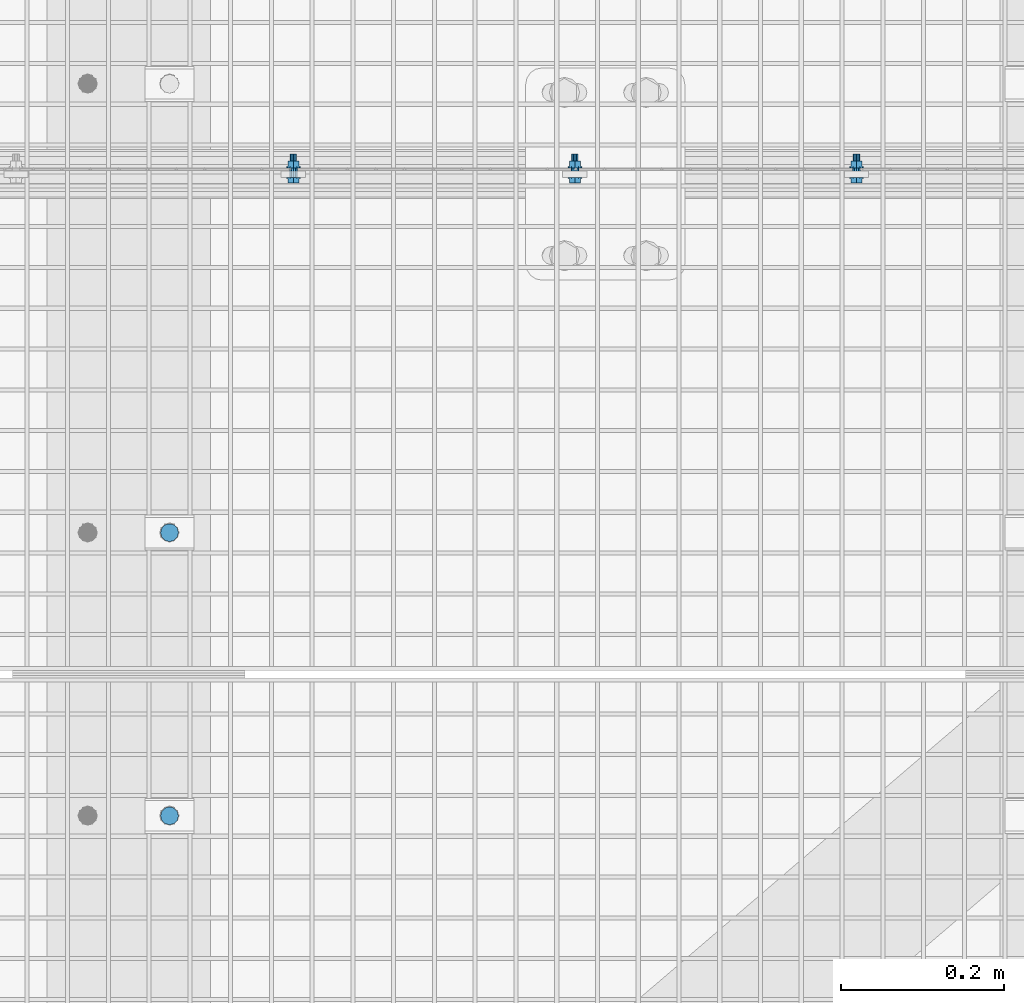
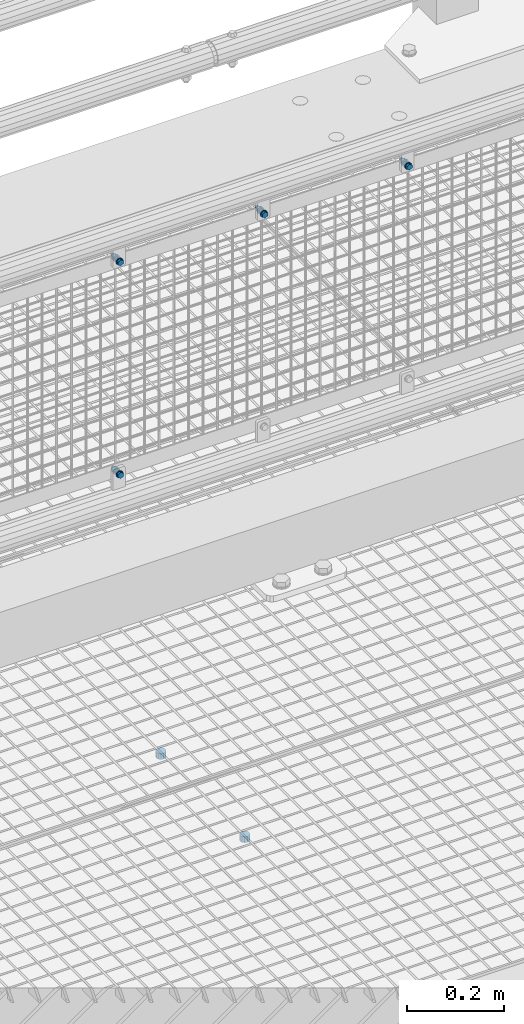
# One storey, part 79 of 1530: 6 mechanical fasteners.
"""IFC2X3 building model written with IfcOpenShell, lengths in millimetres."""

from ifc_helpers import new_model, si_unit, frame, origin_with_axes, place, context, subcontext, project, spatial, faceted_brep, source, transform, mapped, material, type_object, element, save


model = new_model("IFC2X3")

# Units and contexts
model_context = context("Model", 3, precision=1e-05, world=origin_with_axes())
body_context = subcontext(model_context, "Body", "Model", "MODEL_VIEW")
ifc_project = project(units=[si_unit("LENGTHUNIT", "METRE", prefix="MILLI"), si_unit("AREAUNIT", "SQUARE_METRE"), si_unit("VOLUMEUNIT", "CUBIC_METRE"), si_unit("MASSUNIT", "GRAM", prefix="KILO"), si_unit("TIMEUNIT", "SECOND"), si_unit("PLANEANGLEUNIT", "RADIAN"), si_unit("SOLIDANGLEUNIT", "STERADIAN"), si_unit("THERMODYNAMICTEMPERATUREUNIT", "DEGREE_CELSIUS"), si_unit("LUMINOUSINTENSITYUNIT", "LUMEN")], contexts=[model_context])

# Site, building, storey
site_placement = place(None, origin_with_axes())
site = spatial("IfcSite", under=ifc_project, at=site_placement, Name="Brattvåg", CompositionType="ELEMENT")
building_placement = place(site_placement, origin_with_axes())
building = spatial("IfcBuilding", under=site, at=building_placement, Name="Undefined", CompositionType="ELEMENT")
storey_placement = place(building_placement, origin_with_axes())
storey = spatial("IfcBuildingStorey", under=building, at=storey_placement, Name="Undefined", CompositionType="ELEMENT", Elevation=0.0)

# Mechanical fasteners
ifc_material = material(Name="8")
mechanical_fastener_type = type_object("IfcMechanicalFastenerType", Name="Bolt assembly")
shared_shape_1 = source(origin_with_axes(), body_context, "Body", "Brep", [
    faceted_brep([(11.0, -4.99999999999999, 0.0), (9.52627944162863, -4.99999999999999, 5.50000000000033), (5.49999999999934, -4.99999999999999, 9.5262794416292), (-1.13996957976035e-12, -4.99999999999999, 11.0), (-5.50000000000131, -4.99999999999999, 9.52627944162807), (-9.52627944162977, -4.99999999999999, 5.49999999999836), (-11.0, -4.99999999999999, -2.27993915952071e-12), (-9.5262794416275, -4.99999999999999, -5.5000000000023), (-5.49999999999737, -4.99999999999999, -9.52627944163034), (3.40769628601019e-12, -4.99999999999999, -11.0), (5.50000000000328, -4.99999999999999, -9.52627944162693), (9.52627944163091, -4.99999999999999, -5.49999999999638), (9.52627944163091, 10.1, -5.49999999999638), (5.50000000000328, 10.1, -9.52627944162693), (3.40769628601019e-12, 10.1, -11.0), (-5.49999999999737, 10.1, -9.52627944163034), (-9.5262794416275, 10.1, -5.5000000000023), (-11.0, 10.1, -2.27993915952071e-12), (-9.52627944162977, 10.1, 5.49999999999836), (-5.50000000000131, 10.1, 9.52627944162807), (-1.13996957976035e-12, 10.1, 11.0), (5.49999999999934, 10.1, 9.5262794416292), (9.52627944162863, 10.1, 5.50000000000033), (11.0, 10.1, 0.0)], [[[0, 1, 2, 3, 4, 5, 6, 7, 8, 9, 10, 11]], [[12, 13, 14, 15, 16, 17, 18, 19, 20, 21, 22, 23]], [[0, 23, 22, 1]], [[1, 22, 21, 2]], [[2, 21, 20, 3]], [[3, 20, 19, 4]], [[4, 19, 18, 5]], [[5, 18, 17, 6]], [[6, 17, 16, 7]], [[7, 16, 15, 8]], [[8, 15, 14, 9]], [[9, 14, 13, 10]], [[10, 13, 12, 11]], [[11, 12, 23, 0]]]),
])
for number, where, z_axis, x_axis, name in (
    (1, (4124.01192543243, 7224.99, -35.0), (0.0, -1.0, 0.0), (-1.0, 1.99999855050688e-09, 0.0), "Bolt assembly"),
    (2, (4124.01456069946, 6877.99565124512, -35.0), (0.0, -1.0, 0.0), (-1.0, 1.99999855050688e-09, 0.0), "Bolt assembly"),
):
    element("IfcMechanicalFastener", number, at=place(storey_placement, frame(where, z_axis=z_axis, x_axis=x_axis)), inside=storey, type_object=mechanical_fastener_type, material=ifc_material, Name=name, NominalDiameter=20.0, NominalLength=15.0, context=body_context, shape_type="MappedRepresentation", body=[
        mapped(shared_shape_1, transform((0.0, 0.0, 0.0))),
    ])
shared_shape_2 = source(origin_with_axes(), body_context, "Body", "Brep", [
    faceted_brep([(7.50555349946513, -6.90000021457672, 0.0), (3.75277674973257, -6.90000021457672, 6.5), (-3.75277674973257, -6.90000021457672, 6.5), (-7.50555349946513, -6.90000021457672, 9.19165206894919e-16), (-3.75277674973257, -6.90000021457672, -6.5), (3.75277674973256, -6.90000021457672, -6.5), (3.75277674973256, -1.60000002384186, -6.5), (-3.75277674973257, -1.60000002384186, -6.5), (-7.50555349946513, -1.60000002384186, 9.19165206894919e-16), (-3.75277674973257, -1.60000002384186, 6.5), (3.75277674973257, -1.60000002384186, 6.5), (7.50555349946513, -1.60000002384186, 0.0), (4.0, -1.60000002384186, 0.0), (3.46410161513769, -1.60000002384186, 2.00000000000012), (1.99999999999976, -1.60000002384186, 3.46410161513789), (-4.14534392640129e-13, -1.60000002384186, 4.0), (-2.00000000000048, -1.60000002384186, 3.46410161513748), (-3.4641016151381, -1.60000002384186, 1.9999999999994), (-4.0, -1.60000002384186, -8.29068785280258e-13), (-3.46410161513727, -1.60000002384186, -2.00000000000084), (-1.99999999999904, -1.60000002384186, -3.46410161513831), (1.23916228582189e-12, -1.60000002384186, -4.0), (2.00000000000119, -1.60000002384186, -3.46410161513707), (3.46410161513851, -1.60000002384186, -1.99999999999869), (3.46410161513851, 28.3999999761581, -1.99999999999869), (2.00000000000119, 28.3999999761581, -3.46410161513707), (1.23916228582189e-12, 28.3999999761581, -4.0), (-1.99999999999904, 28.3999999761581, -3.46410161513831), (-3.46410161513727, 28.3999999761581, -2.00000000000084), (-4.0, 28.3999999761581, -8.29068785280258e-13), (-3.4641016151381, 28.3999999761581, 1.9999999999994), (-2.00000000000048, 28.3999999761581, 3.46410161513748), (-4.14534392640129e-13, 28.3999999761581, 4.0), (1.99999999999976, 28.3999999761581, 3.46410161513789), (3.46410161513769, 28.3999999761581, 2.00000000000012), (4.0, 28.3999999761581, 0.0), (8.5, -1.60000002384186, 0.0), (7.36121593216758, -1.60000002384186, 4.25000000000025), (4.24999999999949, -1.60000002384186, 7.36121593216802), (-8.80885584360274e-13, -1.60000002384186, 8.5), (-4.25000000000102, -1.60000002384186, 7.36121593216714), (-7.36121593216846, -1.60000002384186, 4.24999999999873), (-8.5, -1.60000002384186, -1.76177116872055e-12), (-7.3612159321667, -1.60000002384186, -4.25000000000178), (-4.24999999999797, -1.60000002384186, -7.3612159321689), (2.63321985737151e-12, -1.60000002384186, -8.5), (4.25000000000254, -1.60000002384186, -7.36121593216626), (7.36121593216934, -1.60000002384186, -4.24999999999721), (7.36121593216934, 0.0, -4.24999999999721), (4.25000000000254, 0.0, -7.36121593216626), (2.63321985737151e-12, 0.0, -8.5), (-4.24999999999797, 0.0, -7.3612159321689), (-7.3612159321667, 0.0, -4.25000000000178), (-8.5, 0.0, -1.76177116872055e-12), (-7.36121593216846, 0.0, 4.24999999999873), (-4.25000000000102, 0.0, 7.36121593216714), (-8.80885584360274e-13, 0.0, 8.5), (4.24999999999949, 0.0, 7.36121593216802), (7.36121593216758, 0.0, 4.25000000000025), (8.5, 0.0, 0.0), (8.5, 11.5015258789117, 0.0), (7.36121593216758, 11.5015258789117, 4.25000000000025), (4.24999999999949, 11.5015258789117, 7.36121593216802), (-8.80885584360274e-13, 11.5015258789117, 8.5), (-4.25000000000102, 11.5015258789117, 7.36121593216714), (-7.36121593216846, 11.5015258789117, 4.24999999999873), (-8.5, 11.5015258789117, -1.76177116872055e-12), (-7.3612159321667, 11.5015258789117, -4.25000000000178), (-4.24999999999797, 11.5015258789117, -7.3612159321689), (2.63321985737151e-12, 11.5015258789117, -8.5), (4.25000000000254, 11.5015258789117, -7.36121593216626), (7.36121593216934, 11.5015258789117, -4.24999999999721), (7.36121593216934, 13.1015259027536, -4.24999999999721), (4.25000000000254, 13.1015259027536, -7.36121593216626), (2.63321985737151e-12, 13.1015259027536, -8.5), (-4.24999999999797, 13.1015259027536, -7.3612159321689), (-7.3612159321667, 13.1015259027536, -4.25000000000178), (-8.5, 13.1015259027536, -1.76177116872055e-12), (-7.36121593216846, 13.1015259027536, 4.24999999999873), (-4.25000000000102, 13.1015259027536, 7.36121593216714), (-8.80885584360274e-13, 13.1015259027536, 8.5), (4.24999999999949, 13.1015259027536, 7.36121593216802), (7.36121593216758, 13.1015259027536, 4.25000000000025), (8.5, 13.1015259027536, 0.0), (7.50555349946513, 13.1015259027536, 0.0), (3.75277674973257, 13.1015259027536, 6.5), (-3.75277674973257, 13.1015259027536, 6.5), (-7.50555349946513, 13.1015259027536, 9.19165206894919e-16), (-3.75277674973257, 13.1015259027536, -6.5), (3.75277674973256, 13.1015259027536, -6.5), (3.75277674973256, 19.9015260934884, -6.5), (-3.75277674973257, 19.9015260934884, -6.5), (-7.50555349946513, 19.9015260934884, 9.19165206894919e-16), (-3.75277674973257, 19.9015260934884, 6.5), (3.75277674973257, 19.9015260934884, 6.5), (7.50555349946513, 19.9015260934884, 0.0)], [[[0, 1, 2, 3, 4, 5]], [[6, 7, 8, 9, 10, 11]], [[0, 11, 10, 1]], [[1, 10, 9, 2]], [[2, 9, 8, 3]], [[3, 8, 7, 4]], [[4, 7, 6, 5]], [[5, 6, 11, 0]], [[12, 13, 14, 15, 16, 17, 18, 19, 20, 21, 22, 23]], [[24, 25, 26, 27, 28, 29, 30, 31, 32, 33, 34, 35]], [[12, 35, 34, 13]], [[13, 34, 33, 14]], [[14, 33, 32, 15]], [[15, 32, 31, 16]], [[16, 31, 30, 17]], [[17, 30, 29, 18]], [[18, 29, 28, 19]], [[19, 28, 27, 20]], [[20, 27, 26, 21]], [[21, 26, 25, 22]], [[22, 25, 24, 23]], [[23, 24, 35, 12]], [[36, 37, 38, 39, 40, 41, 42, 43, 44, 45, 46, 47]], [[48, 49, 50, 51, 52, 53, 54, 55, 56, 57, 58, 59]], [[36, 59, 58, 37]], [[37, 58, 57, 38]], [[38, 57, 56, 39]], [[39, 56, 55, 40]], [[40, 55, 54, 41]], [[41, 54, 53, 42]], [[42, 53, 52, 43]], [[43, 52, 51, 44]], [[44, 51, 50, 45]], [[45, 50, 49, 46]], [[46, 49, 48, 47]], [[47, 48, 59, 36]], [[60, 61, 62, 63, 64, 65, 66, 67, 68, 69, 70, 71]], [[72, 73, 74, 75, 76, 77, 78, 79, 80, 81, 82, 83]], [[60, 83, 82, 61]], [[61, 82, 81, 62]], [[62, 81, 80, 63]], [[63, 80, 79, 64]], [[64, 79, 78, 65]], [[65, 78, 77, 66]], [[66, 77, 76, 67]], [[67, 76, 75, 68]], [[68, 75, 74, 69]], [[69, 74, 73, 70]], [[70, 73, 72, 71]], [[71, 72, 83, 60]], [[84, 85, 86, 87, 88, 89]], [[90, 91, 92, 93, 94, 95]], [[84, 95, 94, 85]], [[85, 94, 93, 86]], [[86, 93, 92, 87]], [[87, 92, 91, 88]], [[88, 91, 90, 89]], [[89, 90, 95, 84]]]),
    faceted_brep([(5.0, 0.1, 0.0), (4.33012701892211, 0.1, 2.50000000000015), (2.4999999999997, 0.1, 4.33012701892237), (-5.18167990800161e-13, 0.1, 5.0), (-2.5000000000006, 0.1, 4.33012701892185), (-4.33012701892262, 0.1, 2.49999999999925), (-5.0, 0.1, -1.03633598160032e-12), (-4.33012701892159, 0.1, -2.50000000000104), (-2.49999999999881, 0.1, -4.33012701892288), (1.54895285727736e-12, 0.1, -5.0), (2.50000000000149, 0.1, -4.33012701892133), (4.33012701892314, 0.1, -2.49999999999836), (4.33012701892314, 8.1, -2.49999999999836), (2.50000000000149, 8.1, -4.33012701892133), (1.54895285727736e-12, 8.1, -5.0), (-2.49999999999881, 8.1, -4.33012701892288), (-4.33012701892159, 8.1, -2.50000000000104), (-5.0, 8.1, -1.03633598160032e-12), (-4.33012701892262, 8.1, 2.49999999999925), (-2.5000000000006, 8.1, 4.33012701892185), (-5.18167990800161e-13, 8.1, 5.0), (2.4999999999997, 8.1, 4.33012701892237), (4.33012701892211, 8.1, 2.50000000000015), (5.0, 8.1, 0.0), (5.0, 8.40152587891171, 0.0), (4.33012701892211, 8.40152587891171, 2.50000000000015), (2.4999999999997, 8.40152587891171, 4.33012701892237), (-5.18167990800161e-13, 8.40152587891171, 5.0), (-2.5000000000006, 8.40152587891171, 4.33012701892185), (-4.33012701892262, 8.40152587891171, 2.49999999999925), (-5.0, 8.40152587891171, -1.03633598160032e-12), (-4.33012701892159, 8.40152587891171, -2.50000000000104), (-2.49999999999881, 8.40152587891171, -4.33012701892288), (1.54895285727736e-12, 8.40152587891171, -5.0), (2.50000000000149, 8.40152587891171, -4.33012701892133), (4.33012701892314, 8.40152587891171, -2.49999999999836), (4.33012701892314, 11.5015258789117, -2.49999999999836), (2.50000000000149, 11.5015258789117, -4.33012701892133), (1.54895285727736e-12, 11.5015258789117, -5.0), (-2.49999999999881, 11.5015258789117, -4.33012701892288), (-4.33012701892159, 11.5015258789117, -2.50000000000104), (-5.0, 11.5015258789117, -1.03633598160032e-12), (-4.33012701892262, 11.5015258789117, 2.49999999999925), (-2.5000000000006, 11.5015258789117, 4.33012701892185), (-5.18167990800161e-13, 11.5015258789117, 5.0), (2.4999999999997, 11.5015258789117, 4.33012701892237), (4.33012701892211, 11.5015258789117, 2.50000000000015), (5.0, 11.5015258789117, 0.0)], [[[0, 1, 2, 3, 4, 5, 6, 7, 8, 9, 10, 11]], [[12, 13, 14, 15, 16, 17, 18, 19, 20, 21, 22, 23]], [[0, 23, 22, 1]], [[1, 22, 21, 2]], [[2, 21, 20, 3]], [[3, 20, 19, 4]], [[4, 19, 18, 5]], [[5, 18, 17, 6]], [[6, 17, 16, 7]], [[7, 16, 15, 8]], [[8, 15, 14, 9]], [[9, 14, 13, 10]], [[10, 13, 12, 11]], [[11, 12, 23, 0]], [[24, 25, 26, 27, 28, 29, 30, 31, 32, 33, 34, 35]], [[36, 37, 38, 39, 40, 41, 42, 43, 44, 45, 46, 47]], [[24, 47, 46, 25]], [[25, 46, 45, 26]], [[26, 45, 44, 27]], [[27, 44, 43, 28]], [[28, 43, 42, 29]], [[29, 42, 41, 30]], [[30, 41, 40, 31]], [[31, 40, 39, 32]], [[32, 39, 38, 33]], [[33, 38, 37, 34]], [[34, 37, 36, 35]], [[35, 36, 47, 24]]]),
])
for number, where, z_axis, x_axis, name in (
    (3, (4275.85110473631, 7660.49950027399, 889.680069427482), (-1.0, 1.99999855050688e-09, 0.0), (0.0, 0.0, 1.0), "Bolt assembly"),
    (4, (4620.8504180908, 7660.49950027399, 889.680069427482), (-1.0, 1.99999855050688e-09, 0.0), (0.0, 0.0, 1.0), "Bolt assembly"),
    (5, (4965.85163879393, 7660.49950027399, 889.680069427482), (-1.0, 1.99999855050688e-09, 0.0), (0.0, 0.0, 1.0), "Bolt assembly"),
):
    element("IfcMechanicalFastener", number, at=place(storey_placement, frame(where, z_axis=z_axis, x_axis=x_axis)), inside=storey, type_object=mechanical_fastener_type, material=ifc_material, Name=name, NominalDiameter=8.0, NominalLength=30.0, context=body_context, shape_type="MappedRepresentation", body=[
        mapped(shared_shape_2, transform((0.0, 0.0, 0.0))),
    ])
shared_shape_3 = source(origin_with_axes(), body_context, "Body", "Brep", [
    faceted_brep([(7.50555349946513, -6.899000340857, 0.0), (3.75277674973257, -6.899000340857, 6.5), (-3.75277674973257, -6.899000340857, 6.5), (-7.50555349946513, -6.899000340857, 9.19165206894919e-16), (-3.75277674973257, -6.899000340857, -6.5), (3.75277674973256, -6.899000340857, -6.5), (3.75277674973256, -1.59900015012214, -6.5), (-3.75277674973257, -1.59900015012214, -6.5), (-7.50555349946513, -1.59900015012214, 9.19165206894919e-16), (-3.75277674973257, -1.59900015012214, 6.5), (3.75277674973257, -1.59900015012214, 6.5), (7.50555349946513, -1.59900015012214, 0.0), (4.0, -1.59900015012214, 0.0), (3.46410161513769, -1.59900015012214, 2.00000000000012), (1.99999999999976, -1.59900015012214, 3.46410161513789), (-4.14534392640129e-13, -1.59900015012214, 4.0), (-2.00000000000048, -1.59900015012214, 3.46410161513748), (-3.4641016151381, -1.59900015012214, 1.9999999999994), (-4.0, -1.59900015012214, -8.29068785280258e-13), (-3.46410161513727, -1.59900015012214, -2.00000000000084), (-1.99999999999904, -1.59900015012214, -3.46410161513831), (1.23916228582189e-12, -1.59900015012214, -4.0), (2.00000000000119, -1.59900015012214, -3.46410161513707), (3.46410161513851, -1.59900015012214, -1.99999999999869), (3.46410161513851, 28.4009998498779, -1.99999999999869), (2.00000000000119, 28.4009998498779, -3.46410161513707), (1.23916228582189e-12, 28.4009998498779, -4.0), (-1.99999999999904, 28.4009998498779, -3.46410161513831), (-3.46410161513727, 28.4009998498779, -2.00000000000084), (-4.0, 28.4009998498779, -8.29068785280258e-13), (-3.4641016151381, 28.4009998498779, 1.9999999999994), (-2.00000000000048, 28.4009998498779, 3.46410161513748), (-4.14534392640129e-13, 28.4009998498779, 4.0), (1.99999999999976, 28.4009998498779, 3.46410161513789), (3.46410161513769, 28.4009998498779, 2.00000000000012), (4.0, 28.4009998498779, 0.0), (8.5, -1.59900015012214, 0.0), (7.36121593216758, -1.59900015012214, 4.25000000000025), (4.24999999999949, -1.59900015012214, 7.36121593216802), (-8.80885584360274e-13, -1.59900015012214, 8.5), (-4.25000000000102, -1.59900015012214, 7.36121593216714), (-7.36121593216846, -1.59900015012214, 4.24999999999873), (-8.5, -1.59900015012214, -1.76177116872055e-12), (-7.3612159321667, -1.59900015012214, -4.25000000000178), (-4.24999999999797, -1.59900015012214, -7.3612159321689), (2.63321985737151e-12, -1.59900015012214, -8.5), (4.25000000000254, -1.59900015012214, -7.36121593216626), (7.36121593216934, -1.59900015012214, -4.24999999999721), (7.36121593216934, 0.000999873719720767, -4.24999999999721), (4.25000000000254, 0.000999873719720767, -7.36121593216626), (2.63321985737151e-12, 0.000999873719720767, -8.5), (-4.24999999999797, 0.000999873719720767, -7.3612159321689), (-7.3612159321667, 0.000999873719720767, -4.25000000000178), (-8.5, 0.000999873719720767, -1.76177116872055e-12), (-7.36121593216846, 0.000999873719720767, 4.24999999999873), (-4.25000000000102, 0.000999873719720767, 7.36121593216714), (-8.80885584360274e-13, 0.000999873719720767, 8.5), (4.24999999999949, 0.000999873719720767, 7.36121593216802), (7.36121593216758, 0.000999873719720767, 4.25000000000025), (8.5, 0.000999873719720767, 0.0), (8.5, 11.5039814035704, 0.0), (7.36121593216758, 11.5039814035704, 4.25000000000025), (4.24999999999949, 11.5039814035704, 7.36121593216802), (-8.80885584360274e-13, 11.5039814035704, 8.5), (-4.25000000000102, 11.5039814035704, 7.36121593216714), (-7.36121593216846, 11.5039814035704, 4.24999999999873), (-8.5, 11.5039814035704, -1.76177116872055e-12), (-7.3612159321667, 11.5039814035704, -4.25000000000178), (-4.24999999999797, 11.5039814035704, -7.3612159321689), (2.63321985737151e-12, 11.5039814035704, -8.5), (4.25000000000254, 11.5039814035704, -7.36121593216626), (7.36121593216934, 11.5039814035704, -4.24999999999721), (7.36121593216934, 13.1039814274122, -4.24999999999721), (4.25000000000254, 13.1039814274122, -7.36121593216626), (2.63321985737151e-12, 13.1039814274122, -8.5), (-4.24999999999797, 13.1039814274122, -7.3612159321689), (-7.3612159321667, 13.1039814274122, -4.25000000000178), (-8.5, 13.1039814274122, -1.76177116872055e-12), (-7.36121593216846, 13.1039814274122, 4.24999999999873), (-4.25000000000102, 13.1039814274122, 7.36121593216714), (-8.80885584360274e-13, 13.1039814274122, 8.5), (4.24999999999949, 13.1039814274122, 7.36121593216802), (7.36121593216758, 13.1039814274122, 4.25000000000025), (8.5, 13.1039814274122, 0.0), (7.50555349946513, 13.1039814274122, 0.0), (3.75277674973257, 13.1039814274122, 6.5), (-3.75277674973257, 13.1039814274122, 6.5), (-7.50555349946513, 13.1039814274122, 9.19165206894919e-16), (-3.75277674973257, 13.1039814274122, -6.5), (3.75277674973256, 13.1039814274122, -6.5), (3.75277674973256, 19.9039816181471, -6.5), (-3.75277674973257, 19.9039816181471, -6.5), (-7.50555349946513, 19.9039816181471, 9.19165206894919e-16), (-3.75277674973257, 19.9039816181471, 6.5), (3.75277674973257, 19.9039816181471, 6.5), (7.50555349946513, 19.9039816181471, 0.0)], [[[0, 1, 2, 3, 4, 5]], [[6, 7, 8, 9, 10, 11]], [[0, 11, 10, 1]], [[1, 10, 9, 2]], [[2, 9, 8, 3]], [[3, 8, 7, 4]], [[4, 7, 6, 5]], [[5, 6, 11, 0]], [[12, 13, 14, 15, 16, 17, 18, 19, 20, 21, 22, 23]], [[24, 25, 26, 27, 28, 29, 30, 31, 32, 33, 34, 35]], [[12, 35, 34, 13]], [[13, 34, 33, 14]], [[14, 33, 32, 15]], [[15, 32, 31, 16]], [[16, 31, 30, 17]], [[17, 30, 29, 18]], [[18, 29, 28, 19]], [[19, 28, 27, 20]], [[20, 27, 26, 21]], [[21, 26, 25, 22]], [[22, 25, 24, 23]], [[23, 24, 35, 12]], [[36, 37, 38, 39, 40, 41, 42, 43, 44, 45, 46, 47]], [[48, 49, 50, 51, 52, 53, 54, 55, 56, 57, 58, 59]], [[36, 59, 58, 37]], [[37, 58, 57, 38]], [[38, 57, 56, 39]], [[39, 56, 55, 40]], [[40, 55, 54, 41]], [[41, 54, 53, 42]], [[42, 53, 52, 43]], [[43, 52, 51, 44]], [[44, 51, 50, 45]], [[45, 50, 49, 46]], [[46, 49, 48, 47]], [[47, 48, 59, 36]], [[60, 61, 62, 63, 64, 65, 66, 67, 68, 69, 70, 71]], [[72, 73, 74, 75, 76, 77, 78, 79, 80, 81, 82, 83]], [[60, 83, 82, 61]], [[61, 82, 81, 62]], [[62, 81, 80, 63]], [[63, 80, 79, 64]], [[64, 79, 78, 65]], [[65, 78, 77, 66]], [[66, 77, 76, 67]], [[67, 76, 75, 68]], [[68, 75, 74, 69]], [[69, 74, 73, 70]], [[70, 73, 72, 71]], [[71, 72, 83, 60]], [[84, 85, 86, 87, 88, 89]], [[90, 91, 92, 93, 94, 95]], [[84, 95, 94, 85]], [[85, 94, 93, 86]], [[86, 93, 92, 87]], [[87, 92, 91, 88]], [[88, 91, 90, 89]], [[89, 90, 95, 84]]]),
    faceted_brep([(5.0, 0.100999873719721, 0.0), (4.33012701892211, 0.100999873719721, 2.50000000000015), (2.4999999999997, 0.100999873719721, 4.33012701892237), (-5.18167990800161e-13, 0.100999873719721, 5.0), (-2.5000000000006, 0.100999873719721, 4.33012701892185), (-4.33012701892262, 0.100999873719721, 2.49999999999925), (-5.0, 0.100999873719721, -1.03633598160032e-12), (-4.33012701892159, 0.100999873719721, -2.50000000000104), (-2.49999999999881, 0.100999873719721, -4.33012701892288), (1.54895285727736e-12, 0.100999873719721, -5.0), (2.50000000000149, 0.100999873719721, -4.33012701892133), (4.33012701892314, 0.100999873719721, -2.49999999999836), (4.33012701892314, 8.10099988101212, -2.49999999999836), (2.50000000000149, 8.10099988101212, -4.33012701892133), (1.54895285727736e-12, 8.10099988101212, -5.0), (-2.49999999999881, 8.10099988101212, -4.33012701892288), (-4.33012701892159, 8.10099988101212, -2.50000000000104), (-5.0, 8.10099988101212, -1.03633598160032e-12), (-4.33012701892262, 8.10099988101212, 2.49999999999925), (-2.5000000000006, 8.10099988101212, 4.33012701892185), (-5.18167990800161e-13, 8.10099988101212, 5.0), (2.4999999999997, 8.10099988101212, 4.33012701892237), (4.33012701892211, 8.10099988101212, 2.50000000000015), (5.0, 8.10099988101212, 0.0), (5.0, 8.40398140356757, 0.0), (4.33012701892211, 8.40398140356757, 2.50000000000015), (2.4999999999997, 8.40398140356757, 4.33012701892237), (-5.18167990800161e-13, 8.40398140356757, 5.0), (-2.5000000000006, 8.40398140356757, 4.33012701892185), (-4.33012701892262, 8.40398140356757, 2.49999999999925), (-5.0, 8.40398140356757, -1.03633598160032e-12), (-4.33012701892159, 8.40398140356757, -2.50000000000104), (-2.49999999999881, 8.40398140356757, -4.33012701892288), (1.54895285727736e-12, 8.40398140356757, -5.0), (2.50000000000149, 8.40398140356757, -4.33012701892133), (4.33012701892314, 8.40398140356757, -2.49999999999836), (4.33012701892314, 11.5039814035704, -2.49999999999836), (2.50000000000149, 11.5039814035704, -4.33012701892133), (1.54895285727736e-12, 11.5039814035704, -5.0), (-2.49999999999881, 11.5039814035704, -4.33012701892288), (-4.33012701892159, 11.5039814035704, -2.50000000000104), (-5.0, 11.5039814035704, -1.03633598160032e-12), (-4.33012701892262, 11.5039814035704, 2.49999999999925), (-2.5000000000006, 11.5039814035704, 4.33012701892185), (-5.18167990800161e-13, 11.5039814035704, 5.0), (2.4999999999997, 11.5039814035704, 4.33012701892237), (4.33012701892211, 11.5039814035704, 2.50000000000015), (5.0, 11.5039814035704, 0.0)], [[[0, 1, 2, 3, 4, 5, 6, 7, 8, 9, 10, 11]], [[12, 13, 14, 15, 16, 17, 18, 19, 20, 21, 22, 23]], [[0, 23, 22, 1]], [[1, 22, 21, 2]], [[2, 21, 20, 3]], [[3, 20, 19, 4]], [[4, 19, 18, 5]], [[5, 18, 17, 6]], [[6, 17, 16, 7]], [[7, 16, 15, 8]], [[8, 15, 14, 9]], [[9, 14, 13, 10]], [[10, 13, 12, 11]], [[11, 12, 23, 0]], [[24, 25, 26, 27, 28, 29, 30, 31, 32, 33, 34, 35]], [[36, 37, 38, 39, 40, 41, 42, 43, 44, 45, 46, 47]], [[24, 47, 46, 25]], [[25, 46, 45, 26]], [[26, 45, 44, 27]], [[27, 44, 43, 28]], [[28, 43, 42, 29]], [[29, 42, 41, 30]], [[30, 41, 40, 31]], [[31, 40, 39, 32]], [[32, 39, 38, 33]], [[33, 38, 37, 34]], [[34, 37, 36, 35]], [[35, 36, 47, 24]]]),
])
mechanical_fastener_placement = place(storey_placement, frame((4275.85076141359, 7660.49843978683, 352.299672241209), z_axis=(-1.0, 1.99999855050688e-09, 0.0), x_axis=(0.0, 0.0, 1.0)))
element("IfcMechanicalFastener", 6, at=mechanical_fastener_placement, inside=storey, type_object=mechanical_fastener_type, material=ifc_material, Name="Bolt assembly", NominalDiameter=8.0, NominalLength=30.0, context=body_context, shape_type="MappedRepresentation", body=[
    mapped(shared_shape_3, transform((0.0, 0.0, 0.0))),
])

save(model, "model.ifc")
